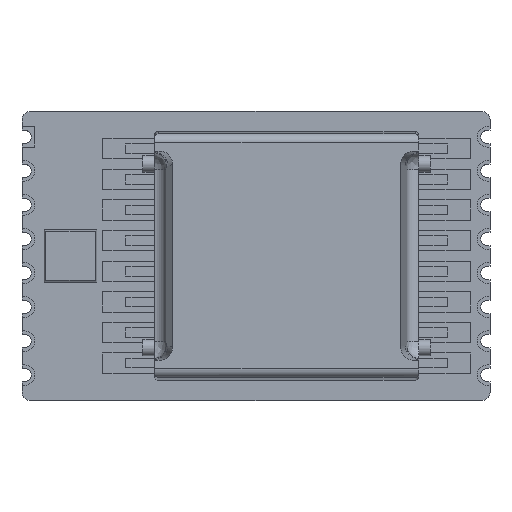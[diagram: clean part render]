
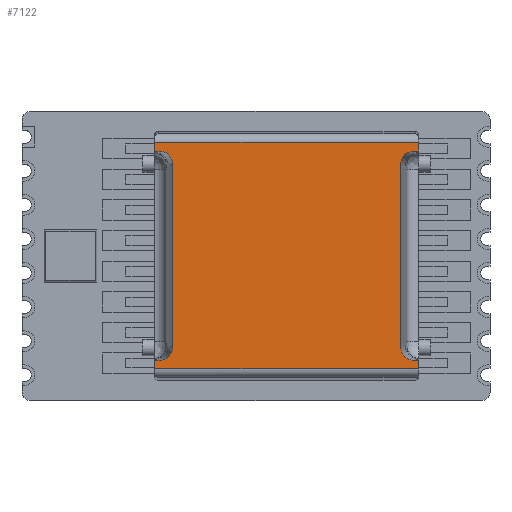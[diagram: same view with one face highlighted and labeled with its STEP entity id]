
A CAD part, top view. The second image highlights one B-rep face of the part: STEP entity #7122.
In plain terms, the highlighted planar face has unit normal (0, 0, 1).
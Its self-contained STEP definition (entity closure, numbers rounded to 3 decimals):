
#185=CARTESIAN_POINT('',(8.496,-5.349,12.19));
#186=CARTESIAN_POINT('',(8.496,-5.416,12.19));
#187=CARTESIAN_POINT('',(8.511,-5.533,12.19));
#188=CARTESIAN_POINT('',(8.58,-5.731,12.19));
#189=CARTESIAN_POINT('',(8.719,-5.926,12.19));
#190=CARTESIAN_POINT('',(8.914,-6.064,12.19));
#191=CARTESIAN_POINT('',(9.112,-6.132,12.19));
#192=CARTESIAN_POINT('',(9.23,-6.148,12.19));
#193=CARTESIAN_POINT('',(9.297,-6.148,12.19));
#195=DIRECTION('',(0.,-1.,0.));
#196=VECTOR('',#195,0.509);
#197=CARTESIAN_POINT('',(-5.95,-6.148,12.19));
#198=LINE('',#197,#196);
#199=DIRECTION('',(1.,0.,0.));
#200=VECTOR('',#199,0.253);
#201=CARTESIAN_POINT('',(-5.95,6.148,12.19));
#202=LINE('',#201,#200);
#203=DIRECTION('',(0.,-1.,0.));
#204=VECTOR('',#203,0.509);
#205=CARTESIAN_POINT('',(-5.95,6.657,12.19));
#206=LINE('',#205,#204);
#207=DIRECTION('',(0.,1.,0.));
#208=VECTOR('',#207,10.698);
#209=CARTESIAN_POINT('',(8.496,-5.349,12.19));
#210=LINE('',#209,#208);
#211=DIRECTION('',(-1.,0.,0.));
#212=VECTOR('',#211,0.253);
#213=CARTESIAN_POINT('',(9.55,-6.148,12.19));
#214=LINE('',#213,#212);
#3614=DIRECTION('',(0.,-1.,0.));
#3615=VECTOR('',#3614,0.509);
#3616=CARTESIAN_POINT('',(9.55,-6.148,12.19));
#3617=LINE('',#3616,#3615);
#3658=DIRECTION('',(0.,-1.,0.));
#3659=VECTOR('',#3658,0.509);
#3660=CARTESIAN_POINT('',(9.55,6.657,12.19));
#3661=LINE('',#3660,#3659);
#4258=DIRECTION('',(-1.,0.,0.));
#4259=VECTOR('',#4258,15.5);
#4260=CARTESIAN_POINT('',(9.55,-6.657,12.19));
#4261=LINE('',#4260,#4259);
#4283=DIRECTION('',(-1.,0.,0.));
#4284=VECTOR('',#4283,0.253);
#4285=CARTESIAN_POINT('',(9.55,6.148,12.19));
#4286=LINE('',#4285,#4284);
#4291=CARTESIAN_POINT('',(9.297,6.148,12.19));
#4292=CARTESIAN_POINT('',(9.23,6.148,12.19));
#4293=CARTESIAN_POINT('',(9.112,6.132,12.19));
#4294=CARTESIAN_POINT('',(8.914,6.064,12.19));
#4295=CARTESIAN_POINT('',(8.719,5.926,12.19));
#4296=CARTESIAN_POINT('',(8.58,5.731,12.19));
#4297=CARTESIAN_POINT('',(8.511,5.533,12.19));
#4298=CARTESIAN_POINT('',(8.496,5.416,12.19));
#4299=CARTESIAN_POINT('',(8.496,5.349,12.19));
#4314=DIRECTION('',(1.,0.,0.));
#4315=VECTOR('',#4314,15.5);
#4316=CARTESIAN_POINT('',(-5.95,6.657,12.19));
#4317=LINE('',#4316,#4315);
#4989=CARTESIAN_POINT('',(-4.896,5.349,12.19));
#4990=CARTESIAN_POINT('',(-4.896,5.416,12.19));
#4991=CARTESIAN_POINT('',(-4.911,5.533,12.19));
#4992=CARTESIAN_POINT('',(-4.98,5.731,12.19));
#4993=CARTESIAN_POINT('',(-5.119,5.926,12.19));
#4994=CARTESIAN_POINT('',(-5.314,6.064,12.19));
#4995=CARTESIAN_POINT('',(-5.512,6.132,12.19));
#4996=CARTESIAN_POINT('',(-5.63,6.148,12.19));
#4997=CARTESIAN_POINT('',(-5.697,6.148,12.19));
#4999=DIRECTION('',(0.,1.,0.));
#5000=VECTOR('',#4999,10.698);
#5001=CARTESIAN_POINT('',(-4.896,-5.349,12.19));
#5002=LINE('',#5001,#5000);
#5021=CARTESIAN_POINT('',(-5.697,-6.148,12.19));
#5022=CARTESIAN_POINT('',(-5.63,-6.148,12.19));
#5023=CARTESIAN_POINT('',(-5.512,-6.132,12.19));
#5024=CARTESIAN_POINT('',(-5.314,-6.064,12.19));
#5025=CARTESIAN_POINT('',(-5.119,-5.926,12.19));
#5026=CARTESIAN_POINT('',(-4.98,-5.731,12.19));
#5027=CARTESIAN_POINT('',(-4.911,-5.533,12.19));
#5028=CARTESIAN_POINT('',(-4.896,-5.416,12.19));
#5029=CARTESIAN_POINT('',(-4.896,-5.349,12.19));
#5031=DIRECTION('',(1.,0.,0.));
#5032=VECTOR('',#5031,0.253);
#5033=CARTESIAN_POINT('',(-5.95,-6.148,12.19));
#5034=LINE('',#5033,#5032);
#5159=CARTESIAN_POINT('',(-5.95,-6.657,12.19));
#5160=VERTEX_POINT('',#5159);
#5161=CARTESIAN_POINT('',(-5.95,-6.148,12.19));
#5162=VERTEX_POINT('',#5161);
#5217=CARTESIAN_POINT('',(9.297,-6.148,12.19));
#5218=VERTEX_POINT('',#5217);
#5219=CARTESIAN_POINT('',(9.297,6.148,12.19));
#5220=VERTEX_POINT('',#5219);
#5221=CARTESIAN_POINT('',(-5.697,-6.148,12.19));
#5222=VERTEX_POINT('',#5221);
#5223=CARTESIAN_POINT('',(-5.697,6.148,12.19));
#5224=VERTEX_POINT('',#5223);
#5225=VERTEX_POINT('',#5029);
#5226=VERTEX_POINT('',#4989);
#5227=CARTESIAN_POINT('',(-5.95,6.148,12.19));
#5228=VERTEX_POINT('',#5227);
#5229=CARTESIAN_POINT('',(-5.95,6.657,12.19));
#5230=CARTESIAN_POINT('',(9.55,6.657,12.19));
#5231=VERTEX_POINT('',#5229);
#5232=VERTEX_POINT('',#5230);
#5233=CARTESIAN_POINT('',(9.55,6.148,12.19));
#5234=VERTEX_POINT('',#5233);
#5235=VERTEX_POINT('',#4299);
#5236=VERTEX_POINT('',#185);
#5237=CARTESIAN_POINT('',(9.55,-6.148,12.19));
#5238=VERTEX_POINT('',#5237);
#5239=CARTESIAN_POINT('',(9.55,-6.657,12.19));
#5240=VERTEX_POINT('',#5239);
#7085=CARTESIAN_POINT('',(9.55,7.3,12.19));
#7086=DIRECTION('',(0.,0.,-1.));
#7087=DIRECTION('',(1.,0.,0.));
#7088=AXIS2_PLACEMENT_3D('',#7085,#7086,#7087);
#7089=PLANE('',#7088);
#7091=ORIENTED_EDGE('',*,*,#7090,.F.);
#7093=ORIENTED_EDGE('',*,*,#7092,.T.);
#7095=ORIENTED_EDGE('',*,*,#7094,.T.);
#7097=ORIENTED_EDGE('',*,*,#7096,.T.);
#7099=ORIENTED_EDGE('',*,*,#7098,.T.);
#7101=ORIENTED_EDGE('',*,*,#7100,.F.);
#7103=ORIENTED_EDGE('',*,*,#7102,.F.);
#7105=ORIENTED_EDGE('',*,*,#7104,.T.);
#7107=ORIENTED_EDGE('',*,*,#7106,.T.);
#7109=ORIENTED_EDGE('',*,*,#7108,.T.);
#7111=ORIENTED_EDGE('',*,*,#7110,.T.);
#7112=ORIENTED_EDGE('',*,*,#6686,.F.);
#7113=ORIENTED_EDGE('',*,*,#7069,.T.);
#7115=ORIENTED_EDGE('',*,*,#7114,.F.);
#7117=ORIENTED_EDGE('',*,*,#7116,.T.);
#7119=ORIENTED_EDGE('',*,*,#7118,.T.);
#7120=EDGE_LOOP('',(#7091,#7093,#7095,#7097,#7099,#7101,#7103,#7105,#7107,#7109,
#7111,#7112,#7113,#7115,#7117,#7119));
#7121=FACE_OUTER_BOUND('',#7120,.F.);
#194=B_SPLINE_CURVE_WITH_KNOTS('',3,(#185,#186,#187,#188,#189,#190,#191,#192,
#193),.UNSPECIFIED.,.F.,.F.,(4,1,1,1,1,1,4),(0.,0.125,0.25,0.5,0.75,
0.875,1.),.UNSPECIFIED.);
#4300=B_SPLINE_CURVE_WITH_KNOTS('',3,(#4291,#4292,#4293,#4294,#4295,#4296,#4297,
#4298,#4299),.UNSPECIFIED.,.F.,.F.,(4,1,1,1,1,1,4),(0.,0.125,0.25,0.5,
0.75,0.875,1.),.UNSPECIFIED.);
#4998=B_SPLINE_CURVE_WITH_KNOTS('',3,(#4989,#4990,#4991,#4992,#4993,#4994,#4995,
#4996,#4997),.UNSPECIFIED.,.F.,.F.,(4,1,1,1,1,1,4),(0.,0.125,0.25,0.5,
0.75,0.875,1.),.UNSPECIFIED.);
#5030=B_SPLINE_CURVE_WITH_KNOTS('',3,(#5021,#5022,#5023,#5024,#5025,#5026,#5027,
#5028,#5029),.UNSPECIFIED.,.F.,.F.,(4,1,1,1,1,1,4),(0.,0.125,0.25,0.5,
0.75,0.875,1.),.UNSPECIFIED.);
#6686=EDGE_CURVE('',#5236,#5235,#210,.T.);
#7069=EDGE_CURVE('',#5236,#5218,#194,.T.);
#7090=EDGE_CURVE('',#5162,#5160,#198,.T.);
#7092=EDGE_CURVE('',#5162,#5222,#5034,.T.);
#7094=EDGE_CURVE('',#5222,#5225,#5030,.T.);
#7096=EDGE_CURVE('',#5225,#5226,#5002,.T.);
#7098=EDGE_CURVE('',#5226,#5224,#4998,.T.);
#7100=EDGE_CURVE('',#5228,#5224,#202,.T.);
#7102=EDGE_CURVE('',#5231,#5228,#206,.T.);
#7104=EDGE_CURVE('',#5231,#5232,#4317,.T.);
#7106=EDGE_CURVE('',#5232,#5234,#3661,.T.);
#7108=EDGE_CURVE('',#5234,#5220,#4286,.T.);
#7110=EDGE_CURVE('',#5220,#5235,#4300,.T.);
#7114=EDGE_CURVE('',#5238,#5218,#214,.T.);
#7116=EDGE_CURVE('',#5238,#5240,#3617,.T.);
#7118=EDGE_CURVE('',#5240,#5160,#4261,.T.);
#7122=ADVANCED_FACE('',(#7121),#7089,.F.);
